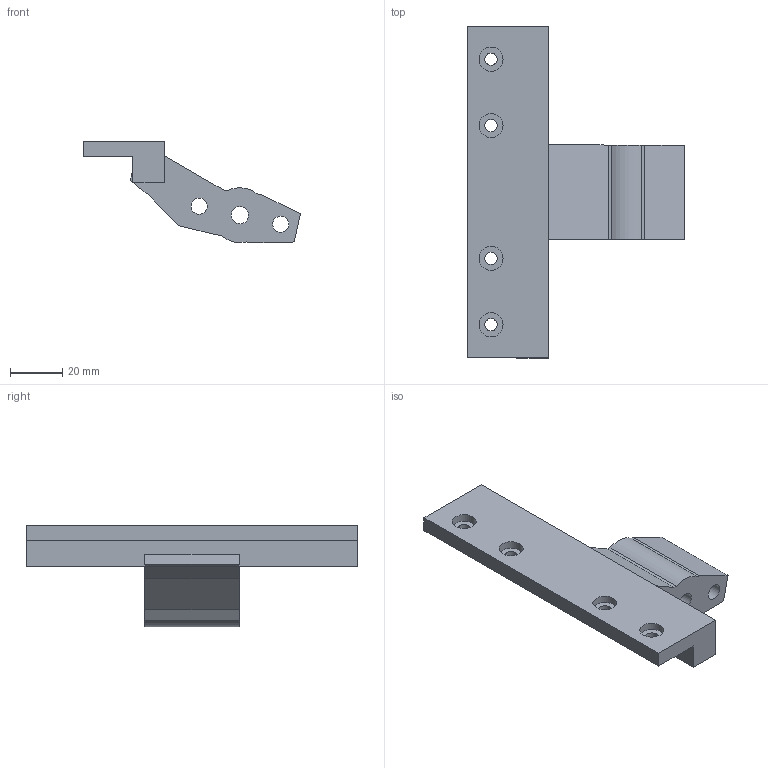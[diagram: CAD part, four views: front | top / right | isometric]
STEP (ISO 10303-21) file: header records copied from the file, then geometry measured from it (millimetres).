
FILE_DESCRIPTION(('Open CASCADE Model'),'2;1');
FILE_NAME('Open CASCADE Shape Model','2026-10-16T02:10:56',('Author'),( 'Open CASCADE'),'Open CASCADE STEP processor 7.9','Open CASCADE 7.9' ,'Unknown');
FILE_SCHEMA(('AUTOMOTIVE_DESIGN { 1 0 10303 214 1 1 1 1 }'));
Length unit declared in the file: millimetre
Products named in the file (1): Open CASCADE STEP translator 7.9 1
Bounding box: 83.01 x 127 x 38.91 mm (x, y, z)
Volume: 71593.4 mm3; surface area: 21455.7 mm2
Topology: 1 solids, 3 shells, 47 faces, 108 edges, 72 vertices
Faces by surface type: plane 32, cylinder 15
Full cylindrical faces by diameter (mm): 4 x2, 4.7 x4, 6.2 x2, 6.6 x1, 9.2 x4
Entity records: 2796 total; most frequent: CARTESIAN_POINT 580, DIRECTION 404, LINE 236, VECTOR 236, ORIENTED_EDGE 216, PCURVE 216, DEFINITIONAL_REPRESENTATION 216, EDGE_CURVE 108
